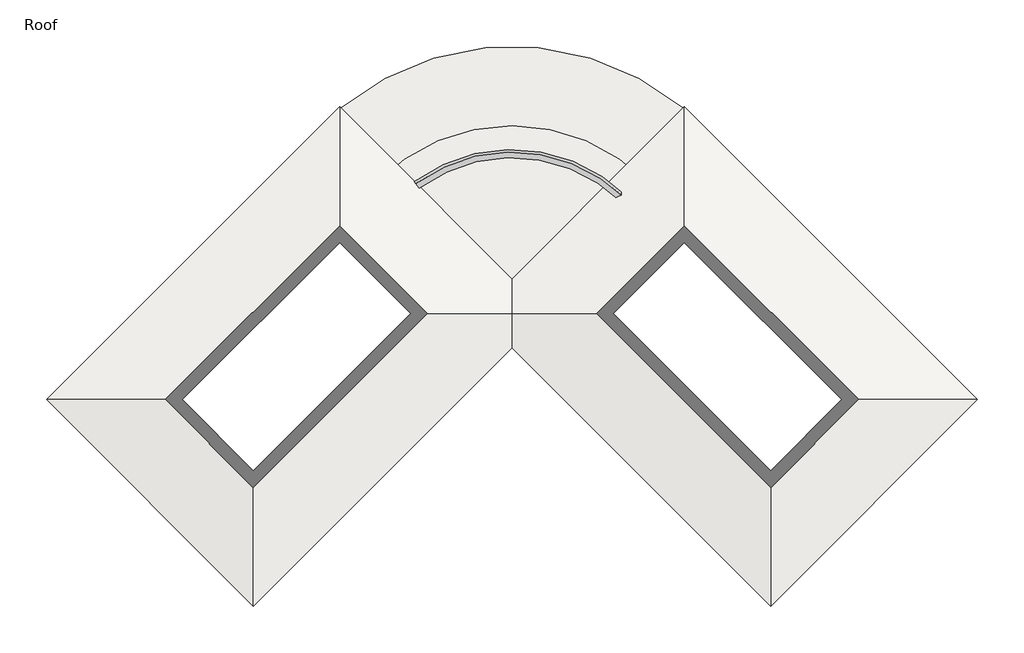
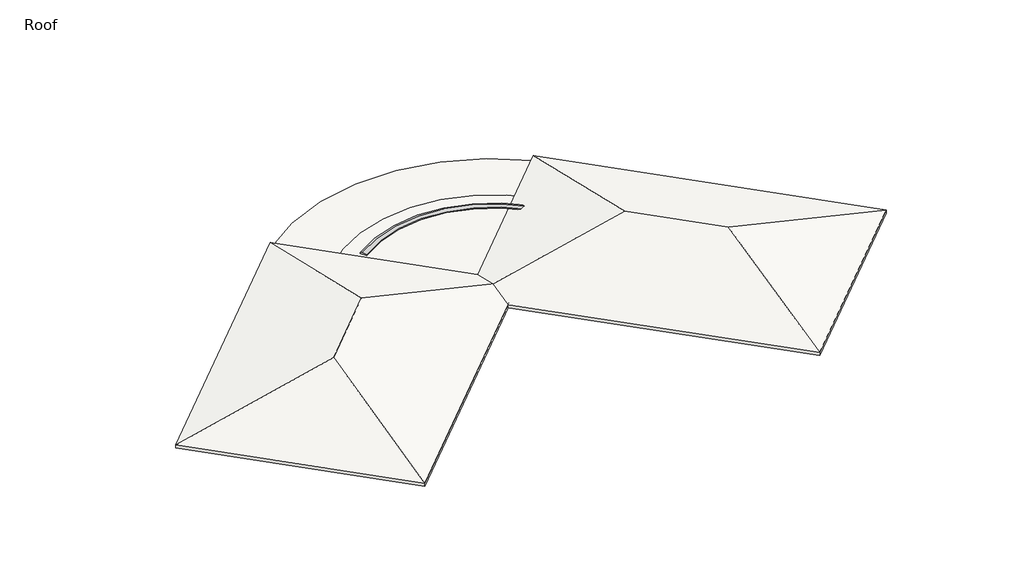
# One storey: 7 proxies, 4 roofs.
"""IFC4 building model written with IfcOpenShell, lengths in millimetres."""

import ifcopenshell
import ifcopenshell.guid

model = None  # the IFC model being written
_history = None  # IfcOwnerHistory: only IFC2X3 demands one
_inside = {}  # id of a spatial element -> (the spatial element, [elements in it])
_under = {}  # id of a project, library or spatial element -> (it, [spatial elements below it])
_declared = {}  # id of a project -> (the project, [libraries it declares])
_typed = {}  # id of a type object -> (the type object, [elements of that type])
_made_of = {}  # id of a material, layer set ... -> (it, [elements and type objects made of it])


def new_model(schema):
    """Start an empty IFC model of exactly this schema.

    Asked for "IFC4X3", IfcOpenShell would pick the latest addendum, in which some entities
    have other attributes; the version numbers below select the first issue.
    IFC2X3 requires an IfcOwnerHistory on every rooted entity: one is made here for all.
    """
    global model, _history
    if schema == "IFC4X3":
        model = ifcopenshell.file(schema_version=(4, 3, 0, 0))
    else:
        model = ifcopenshell.file(schema=schema)
    _inside.clear()
    _under.clear()
    _declared.clear()
    _typed.clear()
    _made_of.clear()
    _history = None
    if model.schema == "IFC2X3":
        org = make("IfcOrganization", Name="unknown")
        user = make(
            "IfcPersonAndOrganization",
            ThePerson=make("IfcPerson", FamilyName="unknown"),
            TheOrganization=org,
        )
        app = make(
            "IfcApplication",
            ApplicationDeveloper=org,
            Version="unknown",
            ApplicationFullName="unknown",
            ApplicationIdentifier="unknown",
        )
        _history = make(
            "IfcOwnerHistory",
            OwningUser=user,
            OwningApplication=app,
            ChangeAction="ADDED",
            CreationDate=0,
        )
    return model


def make(cls, **values):
    """One entity of the class cls with the attributes given. An attribute that is None is left unset."""
    return model.create_entity(
        cls, **{name: value for name, value in values.items() if value is not None}
    )


def rooted(cls, **values):
    """An entity with a GlobalId (a new one), such as an element, a storey or a relation."""
    return make(cls, GlobalId=ifcopenshell.guid.new(), OwnerHistory=_history, **values)


def si_unit(unit_type, name, prefix=None):
    """IfcSIUnit, for example si_unit("LENGTHUNIT", "METRE", prefix="MILLI")."""
    return make("IfcSIUnit", UnitType=unit_type, Prefix=prefix, Name=name)


def assignment(units):
    """IfcUnitAssignment: the units of a project."""
    return None if units is None else make("IfcUnitAssignment", Units=units)


def point(xyz):
    """IfcCartesianPoint."""
    return None if xyz is None else make("IfcCartesianPoint", Coordinates=xyz)


def direction(xyz):
    """IfcDirection."""
    return None if xyz is None else make("IfcDirection", DirectionRatios=xyz)


def frame(location, z_axis=None, x_axis=None):
    """IfcAxis2Placement3D, a coordinate frame: its origin and axes. An axis left out is left unset."""
    return make(
        "IfcAxis2Placement3D",
        Location=point(location),
        Axis=direction(z_axis),
        RefDirection=direction(x_axis),
    )


def frame_2d(location, x_axis=None):
    """IfcAxis2Placement2D, a coordinate frame in the plane: its origin and x axis."""
    return make(
        "IfcAxis2Placement2D", Location=point(location), RefDirection=direction(x_axis)
    )


def origin():
    """The frame at (0, 0, 0) with its axes left unset."""
    return frame((0.0, 0.0, 0.0))


def place(relative_to, where):
    """IfcLocalPlacement: puts the frame where relative to a parent placement (None: the world)."""
    return make(
        "IfcLocalPlacement", PlacementRelTo=relative_to, RelativePlacement=where
    )


def context(
    kind, dimensions, precision=None, world=None, true_north=None, identifier=None
):
    """IfcGeometricRepresentationContext, for example the 3D "Model" context."""
    return make(
        "IfcGeometricRepresentationContext",
        ContextIdentifier=identifier,
        ContextType=kind,
        CoordinateSpaceDimension=dimensions,
        Precision=precision,
        WorldCoordinateSystem=world,
        TrueNorth=true_north,
    )


def project(units=None, contexts=None):
    """IfcProject with its units and contexts."""
    return rooted(
        "IfcProject",
        Name="project",
        RepresentationContexts=contexts,
        UnitsInContext=assignment(units),
    )


def spatial(cls, under=None, at=None, **own):
    """A site, building, storey or space (cls), placed at a placement, below another one or the project."""
    s = rooted(cls, ObjectPlacement=at, **own)
    if under is not None:
        _under.setdefault(under.id(), (under, []))[1].append(s)
    return s


def polyline(points):
    """IfcPolyline through the points."""
    return make("IfcPolyline", Points=[point(p) for p in points])


def circle_curve(where, radius):
    """IfcCircle in the frame where."""
    return make("IfcCircle", Position=where, Radius=radius)


def trimmed(basis, trim1, trim2, sense, master):
    """IfcTrimmedCurve: the piece of a basis curve between two trims."""
    return make(
        "IfcTrimmedCurve",
        BasisCurve=basis,
        Trim1=trim1,
        Trim2=trim2,
        SenseAgreement=sense,
        MasterRepresentation=master,
    )


def segment(curve, same_sense, transition):
    """IfcCompositeCurveSegment."""
    return make(
        "IfcCompositeCurveSegment",
        Transition=transition,
        SameSense=same_sense,
        ParentCurve=curve,
    )


def composite_curve(segments, self_intersect=None):
    """IfcCompositeCurve: segments joined end to end."""
    return make("IfcCompositeCurve", Segments=segments, SelfIntersect=self_intersect)


def outline(outer, holes=None, kind="AREA"):
    """IfcArbitraryClosedProfileDef: a profile drawn as a closed curve; with holes, ...WithVoids."""
    if holes is None:
        return make("IfcArbitraryClosedProfileDef", ProfileType=kind, OuterCurve=outer)
    return make(
        "IfcArbitraryProfileDefWithVoids",
        ProfileType=kind,
        OuterCurve=outer,
        InnerCurves=holes,
    )


def extrude(swept, where, along, depth):
    """IfcExtrudedAreaSolid: the profile swept, set in the frame where, extruded along a direction by depth."""
    return make(
        "IfcExtrudedAreaSolid",
        SweptArea=swept,
        Position=where,
        ExtrudedDirection=direction(along),
        Depth=depth,
    )


def faces_of(points, faces, orient=None, outer=None):
    """IfcFace entities. A face is a list of loops; a loop is a list of indices into points, from 0.

    orient and outer hold one flag for each loop. By default every Orientation is true, the
    first loop of a face is its IfcFaceOuterBound and the others are IfcFaceBound.
    """
    made = []
    for i, loops in enumerate(faces):
        bounds = []
        for j, loop in enumerate(loops):
            is_outer = j == 0 if outer is None else outer[i][j]
            bounds.append(
                make(
                    "IfcFaceOuterBound" if is_outer else "IfcFaceBound",
                    Bound=make("IfcPolyLoop", Polygon=[points[k] for k in loop]),
                    Orientation=True if orient is None else orient[i][j],
                )
            )
        made.append(make("IfcFace", Bounds=bounds))
    return made


def faceted_brep(points, faces, orient=None, outer=None, voids=None):
    """IfcFacetedBrep: a solid bounded by flat faces; with voids (closed shells), ...WithVoids."""
    shared = [point(p) for p in points]
    hull = make("IfcClosedShell", CfsFaces=faces_of(shared, faces, orient, outer))
    if voids is None:
        return make("IfcFacetedBrep", Outer=hull)
    return make(
        "IfcFacetedBrepWithVoids",
        Outer=hull,
        Voids=[
            make(cls, CfsFaces=faces_of(shared, fs, o, b)) for cls, fs, o, b in voids
        ],
    )


def shape(context_of_items, identifier, shape_type, items):
    """IfcShapeRepresentation: the items that make up one representation, for example the "Body"."""
    return make(
        "IfcShapeRepresentation",
        ContextOfItems=context_of_items,
        RepresentationIdentifier=identifier,
        RepresentationType=shape_type,
        Items=items,
    )


def made_of(thing, what):
    """Note that an element or type object is made of a material, layer set ...; save() writes the relation."""
    if what is not None:
        _made_of.setdefault(what.id(), (what, []))[1].append(thing)
    return thing


def element(
    cls,
    number,
    at=None,
    inside=None,
    cuts=None,
    type_object=None,
    material=None,
    context=None,
    identifier="Body",
    shape_type=None,
    held_by="IfcProductDefinitionShape",
    body=None,
    shapes=None,
    **own,
):
    """One element of the class cls, such as IfcWall. Its Tag is "e" and its number.

    at: its placement. inside: the storey or other place that contains it. cuts: it is an
    opening in that element (IfcRelVoidsElement). A single representation is given by context,
    identifier, shape_type and body (its items); several are given by shapes. held_by: the class
    of the entity that holds the representations. save() writes the other relations.
    """
    e = rooted(cls, Tag="e%d" % number, ObjectPlacement=at, **own)
    if body is not None:
        shapes = [shape(context, identifier, shape_type, body)]
    if shapes is not None:
        e.Representation = make(held_by, Representations=shapes)
    if inside is not None:
        _inside.setdefault(inside.id(), (inside, []))[1].append(e)
    if cuts is not None:
        rooted(
            "IfcRelVoidsElement", RelatingBuildingElement=cuts, RelatedOpeningElement=e
        )
    if type_object is not None:
        _typed.setdefault(type_object.id(), (type_object, []))[1].append(e)
    return made_of(e, material)


def aggregate(whole, parts):
    """IfcRelAggregates: a whole, such as a stair, and the parts it consists of."""
    return rooted("IfcRelAggregates", RelatingObject=whole, RelatedObjects=parts)


def save(model, path):
    """Write the relations noted so far, then the file.

    IfcRelAggregates (storeys below a building ...), IfcRelContainedInSpatialStructure (elements
    in a storey), IfcRelDefinesByType, IfcRelAssociatesMaterial and IfcRelDeclares: one each for
    every whole, place, type object, material and project.
    """
    for whole, parts in _under.values():
        aggregate(whole, parts)
    for where, things in _inside.values():
        rooted(
            "IfcRelContainedInSpatialStructure",
            RelatedElements=things,
            RelatingStructure=where,
        )
    for kind, things in _typed.values():
        rooted("IfcRelDefinesByType", RelatedObjects=things, RelatingType=kind)
    for what, things in _made_of.values():
        rooted("IfcRelAssociatesMaterial", RelatedObjects=things, RelatingMaterial=what)
    for by, libraries in _declared.values():
        rooted("IfcRelDeclares", RelatingContext=by, RelatedDefinitions=libraries)
    model.write(path)


def plane_surface(at):
    """IfcPlane: the flat surface through the origin of the frame at, square to its z axis."""
    return make("IfcPlane", Position=at)


def cylinder_surface(at, radius):
    """IfcCylindricalSurface: all points at the distance radius from the z axis of the frame at."""
    return make("IfcCylindricalSurface", Position=at, Radius=radius)


def revolved_surface(curve, axis_point, axis_direction):
    """IfcSurfaceOfRevolution: the curve turned about the line through axis_point along axis_direction."""
    return make(
        "IfcSurfaceOfRevolution",
        SweptCurve=make("IfcArbitraryOpenProfileDef", ProfileType="CURVE", Curve=curve),
        AxisPosition=make("IfcAxis1Placement", Location=point(axis_point), Axis=direction(axis_direction)),
    )


def advanced_brep(points, edges, surfaces, faces):
    """IfcAdvancedBrep: a solid bounded by faces that lie on surfaces and meet in shared edges.

    An edge is (start, end): straight between two places in points (the first is 0);
    or (start, end, curve); or (start, end, curve, False) where it runs against its curve.
    A face is (place in surfaces, loops), or (place, loops, False) where it looks against
    its surface's normal. A loop lists edges by number (the first is 1), with a minus sign
    where the edge is run from its end to its start. The first loop is the outer one.
    """
    corners = [point(p) for p in points]
    vertices = [make("IfcVertexPoint", VertexGeometry=c) for c in corners]
    made = []
    for start, end, *more in edges:
        made.append(
            make(
                "IfcEdgeCurve",
                EdgeStart=vertices[start],
                EdgeEnd=vertices[end],
                EdgeGeometry=more[0] if more else make("IfcPolyline", Points=[corners[start], corners[end]]),
                SameSense=more[1] if len(more) > 1 else True,
            )
        )
    hull = []
    for where, loops, *sense in faces:
        bounds = []
        for j, loop in enumerate(loops):
            ring = [make("IfcOrientedEdge", EdgeElement=made[abs(k) - 1], Orientation=k > 0) for k in loop]
            bounds.append(
                make(
                    "IfcFaceOuterBound" if j == 0 else "IfcFaceBound",
                    Bound=make("IfcEdgeLoop", EdgeList=ring),
                    Orientation=True,
                )
            )
        hull.append(make("IfcAdvancedFace", Bounds=bounds, FaceSurface=surfaces[where], SameSense=sense[0] if sense else True))
    return make("IfcAdvancedBrep", Outer=make("IfcClosedShell", CfsFaces=hull))


model = new_model("IFC4")

# Units and contexts
model_context = context("Model", 3, world=origin())
ifc_project = project(units=[si_unit("LENGTHUNIT", "METRE", prefix="MILLI")], contexts=[model_context])

# Site, building, storey
site = spatial("IfcSite", under=ifc_project)
building = spatial("IfcBuilding", under=site)
storey = spatial("IfcBuildingStorey", under=building, Name="Roof", Elevation=4572.0)

# Proxies
placement = place(None, origin())
element("IfcBuildingElementProxy", 1, Name="Wall Sweeps", at=placement, inside=storey, context=model_context, shape_type="Brep", body=[
    faceted_brep([(4057.9485283, 9339.6949534, 4635.5), (3860.3828937, 9537.2605881, 4673.6), (3770.5803325, 9627.0631493, 4635.5), (3770.5803325, 9627.0631493, 4572.0), (4057.9485283, 9339.6949534, 4572.0), (5753.0175119, 11034.763937, 4635.5), (5753.0175119, 11034.763937, 4572.0), (5753.0175119, 11609.5003287, 4572.0), (5753.0175119, 11609.5003287, 4635.5), (5753.0175119, 11429.8952063, 4673.6)], [[[0, 1, 2, 3, 4]], [[5, 6, 7, 8, 9]], [[1, 0, 5, 9]], [[2, 1, 9, 8]], [[3, 2, 8, 7]], [[4, 3, 7, 6]], [[0, 4, 6, 5]]]),
])
element("IfcBuildingElementProxy", 2, Name="Wall Sweeps", at=placement, inside=storey, context=model_context, shape_type="Brep", body=[
    faceted_brep([(5753.0175119, 11034.763937, 4635.5), (5753.0175119, 11429.8952063, 4673.6), (5753.0175119, 11609.5003287, 4635.5), (5753.0175119, 11609.5003287, 4572.0), (5753.0175119, 11034.763937, 4572.0), (18145.770959, -1357.9895101, 4635.5), (18145.770959, -1357.9895101, 4572.0), (18720.5073507, -1357.9895101, 4572.0), (18720.5073507, -1357.9895101, 4635.5), (18540.9022283, -1357.9895101, 4673.6)], [[[0, 1, 2, 3, 4]], [[5, 6, 7, 8, 9]], [[1, 0, 5, 9]], [[2, 1, 9, 8]], [[3, 2, 8, 7]], [[4, 3, 7, 6]], [[0, 4, 6, 5]]]),
])
element("IfcBuildingElementProxy", 3, Name="Wall Sweeps", at=placement, inside=storey, context=model_context, shape_type="Brep", body=[
    faceted_brep([(18145.770959, -1357.9895101, 4635.5), (18540.9022283, -1357.9895101, 4673.6), (18720.5073507, -1357.9895101, 4635.5), (18720.5073507, -1357.9895101, 4572.0), (18145.770959, -1357.9895101, 4572.0), (9918.7338201, -9585.026649, 4635.5), (9918.7338201, -9585.026649, 4572.0), (9938.9393964, -9605.2322253, 4572.0), (10188.1415037, -9854.4343326, 4572.0), (10206.102016, -9872.3948449, 4572.0), (10206.102016, -9872.3948449, 4635.5), (10116.2994547, -9782.5922837, 4673.6)], [[[0, 1, 2, 3, 4]], [[5, 6, 7, 8, 9, 10, 11]], [[1, 0, 5, 11]], [[2, 1, 11, 10]], [[3, 2, 10, 9]], [[4, 3, 9, 8, 7, 6]], [[0, 4, 6, 5]]]),
])
element("IfcBuildingElementProxy", 4, Name="Wall Sweeps", at=placement, inside=storey, context=model_context, shape_type="Brep", body=[
    faceted_brep([(-15654.7905487, -9585.026649, 4635.5), (-15852.3561834, -9782.5922837, 4673.6), (-15942.1587446, -9872.3948449, 4635.5), (-15942.1587446, -9872.3948449, 4572.0), (-15924.1982323, -9854.4343326, 4572.0), (-15674.996125, -9605.2322253, 4572.0), (-15654.7905487, -9585.026649, 4572.0), (-23881.8276876, -1357.9895101, 4635.5), (-23881.8276876, -1357.9895101, 4572.0), (-24456.5640794, -1357.9895101, 4572.0), (-24456.5640794, -1357.9895101, 4635.5), (-24276.9589569, -1357.9895101, 4673.6)], [[[0, 1, 2, 3, 4, 5, 6]], [[7, 8, 9, 10, 11]], [[1, 0, 7, 11]], [[2, 1, 11, 10]], [[3, 2, 10, 9]], [[6, 5, 4, 3, 9, 8]], [[0, 6, 8, 7]]]),
])
element("IfcBuildingElementProxy", 5, Name="Wall Sweeps", at=placement, inside=storey, context=model_context, shape_type="Brep", body=[
    faceted_brep([(-23881.8276876, -1357.9895101, 4635.5), (-24276.9589569, -1357.9895101, 4673.6), (-24456.5640794, -1357.9895101, 4635.5), (-24456.5640794, -1357.9895101, 4572.0), (-23881.8276876, -1357.9895101, 4572.0), (-11489.0742405, 11034.763937, 4635.5), (-11489.0742405, 11034.763937, 4572.0), (-11489.0742405, 11609.5003287, 4572.0), (-11489.0742405, 11609.5003287, 4635.5), (-11489.0742405, 11429.8952063, 4673.6)], [[[0, 1, 2, 3, 4]], [[5, 6, 7, 8, 9]], [[1, 0, 5, 9]], [[2, 1, 9, 8]], [[3, 2, 8, 7]], [[4, 3, 7, 6]], [[0, 4, 6, 5]]]),
])
element("IfcBuildingElementProxy", 6, Name="Wall Sweeps", at=placement, inside=storey, context=model_context, shape_type="Brep", body=[
    faceted_brep([(-11489.0742405, 11034.763937, 4635.5), (-11489.0742405, 11429.8952063, 4673.6), (-11489.0742405, 11609.5003287, 4635.5), (-11489.0742405, 11609.5003287, 4572.0), (-11489.0742405, 11034.763937, 4572.0), (-8931.8939077, 8477.5836041, 4635.5), (-8931.8939077, 8477.5836041, 4572.0), (-8911.6883314, 8497.7891804, 4572.0), (-8662.486224, 8746.9912878, 4572.0), (-8644.5257118, 8764.9518, 4572.0), (-8644.5257118, 8764.9518, 4635.5), (-8734.328273, 8675.1492388, 4673.6), (-8836.2976328, 8573.179879, 4653.9354839), (-8911.6883314, 8497.7891804, 4639.3965909)], [[[0, 1, 2, 3, 4]], [[5, 6, 7, 8, 9, 10, 11, 12, 13]], [[1, 0, 5, 13, 12, 11]], [[2, 1, 11, 10]], [[3, 2, 10, 9]], [[4, 3, 9, 8, 7, 6]], [[0, 4, 6, 5]]]),
])
element("IfcBuildingElementProxy", 7, Name="Wall Sweeps", at=placement, inside=storey, context=model_context, shape_type="AdvancedBrep", body=[
    advanced_brep(
    [(-7507.26102, 9233.8641208, 4635.5), (-7672.4116971, 9459.2296325, 4673.6), (-7747.4801867, 9561.6685015, 4635.5), (-7747.4801867, 9561.6685015, 4572.0), (-7507.26102, 9233.8641208, 4572.0), (2658.1675575, 8476.4427105, 4635.5), (2658.1675575, 8476.4427105, 4572.0), (2944.3136246, 8765.0278596, 4572.0), (2944.3136246, 8765.0278596, 4635.5), (2854.8929786, 8674.8450005, 4673.6)],
    [
        (0, 1),
        (1, 2),
        (2, 3),
        (3, 4),
        (4, 0),
        (5, 6),
        (6, 7),
        (7, 8),
        (8, 9),
        (9, 5),
        (9, 1, circle_curve(frame((-2868.0283643, 2903.1420194, 4673.6), z_axis=(0.0, 0.0, 1.0), x_axis=(-0.591090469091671, 0.8066052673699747, 0.0)), 8128.0)),
        (0, 5, circle_curve(frame((-2868.0283643, 2903.1420194, 4635.5), z_axis=(0.0, 0.0, -1.0), x_axis=(-0.591090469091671, 0.8066052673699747, 0.0)), 7848.6)),
        (8, 2, circle_curve(frame((-2868.0283643, 2903.1420194, 4635.5), z_axis=(0.0, 0.0, 1.0), x_axis=(-0.591090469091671, 0.8066052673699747, 0.0)), 8255.0)),
        (7, 3, circle_curve(frame((-2868.0283643, 2903.1420194, 4572.0), z_axis=(0.0, 0.0, 1.0), x_axis=(-0.591090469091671, 0.8066052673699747, 0.0)), 8255.0)),
        (6, 4, circle_curve(frame((-2868.0283643, 2903.1420194, 4572.0), z_axis=(0.0, 0.0, 1.0), x_axis=(-0.591090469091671, 0.8066052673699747, 0.0)), 7848.6)),
    ],
    [
        plane_surface(frame((-2868.0283643, 2903.1420194, 4572.0), z_axis=(-0.8066052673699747, -0.591090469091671, 0.0), x_axis=(-0.591090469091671, 0.8066052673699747, 0.0))),
        plane_surface(frame((-2868.0283643, 2903.1420194, 4572.0), z_axis=(0.7101012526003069, -0.7040995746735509, 0.0), x_axis=(0.7040995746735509, 0.7101012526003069, 0.0))),
        revolved_surface(polyline([(-7507.26102, 9233.8641208, 4635.5), (-7672.4116971, 9459.2296325, 4673.6)]), (-2868.0283643, 2903.1420194, 4572.0), (0.0, 0.0, -1.0)),
        revolved_surface(polyline([(-7672.4116971, 9459.2296325, 4673.6), (-7747.4801867, 9561.6685015, 4635.5)]), (-2868.0283643, 2903.1420194, 4572.0), (0.0, 0.0, -1.0)),
        cylinder_surface(frame((-2868.0283643, 2903.1420194, 4572.0), z_axis=(0.0, 0.0, -1.0), x_axis=(-0.591090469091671, 0.8066052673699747, 0.0)), 8255.0),
        plane_surface(frame((-2868.0283643, 2903.1420194, 4572.0), z_axis=(0.0, 0.0, -1.0), x_axis=(-0.591090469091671, 0.8066052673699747, 0.0))),
        revolved_surface(polyline([(-7507.261020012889, 9233.864120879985, 4572.0), (-7507.261020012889, 9233.864120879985, 4635.5)]), (-2868.0283643, 2903.1420194, 4572.0), (0.0, 0.0, -1.0)),
    ],
    [
        (0, [[1, 2, 3, 4, 5]]),
        (1, [[6, 7, 8, 9, 10]]),
        (2, [[11, -1, 12, -10]]),
        (3, [[13, -2, -11, -9]]),
        (4, [[14, -3, -13, -8]]),
        (5, [[15, -4, -14, -7]]),
        (6, [[-12, -5, -15, -6]]),
    ],
),
])

# Roofs
element("IfcRoof", 8, ObjectType="Insulation on Metal Deck - EPDM", at=placement, inside=storey, context=model_context, shape_type="Brep", body=[
    faceted_brep([(-11489.0742405, 2952.533428, 6604.0), (-11489.0742405, 13297.7884795, 4165.6), (-1143.8191891, 2952.533428, 4165.6), (-26144.8522301, -1357.9895101, 4165.6), (-15799.5971786, -1357.9895101, 6604.0), (-15799.5971786, -11703.2445616, 4165.6), (-11489.0742405, 13297.7884795, 4373.0981191), (-11489.0742405, 2952.533428, 6811.4981191), (-1143.8191891, 2952.533428, 4373.0981191), (-26144.8522301, -1357.9895101, 4373.0981191), (-15799.5971786, -11703.2445616, 4373.0981191), (-15799.5971786, -1357.9895101, 6811.4981191)], [[[0, 1, 2]], [[3, 4, 5]], [[1, 0, 4, 3]], [[5, 4, 0, 2]], [[6, 7, 8]], [[9, 10, 11]], [[6, 9, 11, 7]], [[10, 8, 7, 11]], [[3, 9, 6, 1]], [[5, 10, 9, 3]], [[2, 8, 10, 5]], [[1, 6, 8, 2]]]),
])
element("IfcRoof", 9, ObjectType="Insulation on Metal Deck - EPDM", at=placement, inside=storey, context=model_context, shape_type="SweptSolid", body=[
    extrude(outline(composite_curve([segment(trimmed(circle_curve(frame_2d((-2868.0283643, 2903.1420194)), 9448.8), [point((-9665.5266036, 9466.2083094))], [point((3929.469875, 9466.2083094))], False, "CARTESIAN"), True, "CONTINUOUS"), segment(polyline([(3929.469875, 9466.2083094), (-2868.0283643, 2668.7100701), (-9665.5266036, 9466.2083094)]), True, "CONTINUOUS")], self_intersect=False)), frame((0.0, 0.0, 4165.6), z_axis=(0.0, 0.0, 1.0), x_axis=(1.0, 0.0, 0.0)), (0.0, 0.0, 1.0), 196.85),
])
element("IfcRoof", 10, ObjectType="Insulation on Metal Deck - EPDM", at=placement, inside=storey, context=model_context, shape_type="Brep", body=[
    faceted_brep([(5753.0175119, 2952.533428, 6604.0), (5753.0175119, 13297.7884795, 4165.6), (20408.7955015, -1357.9895101, 4165.6), (10063.54045, -1357.9895101, 6604.0), (-4592.2375396, 2952.533428, 4165.6), (10063.54045, -11703.2445616, 4165.6), (5753.0175119, 13297.7884795, 4373.0981191), (5753.0175119, 2952.533428, 6811.4981191), (10063.54045, -1357.9895101, 6811.4981191), (20408.7955015, -1357.9895101, 4373.0981191), (-4592.2375396, 2952.533428, 4373.0981191), (10063.54045, -11703.2445616, 4373.0981191)], [[[0, 1, 2, 3]], [[1, 0, 4]], [[5, 3, 2]], [[4, 0, 3, 5]], [[6, 7, 8, 9]], [[6, 10, 7]], [[11, 9, 8]], [[10, 11, 8, 7]], [[4, 10, 6, 1]], [[5, 11, 10, 4]], [[2, 9, 11, 5]], [[1, 6, 9, 2]]]),
])
element("IfcRoof", 11, ObjectType="Insulation on Metal Deck - EPDM", at=placement, inside=storey, context=model_context, shape_type="SweptSolid", body=[
    extrude(outline(composite_curve([segment(polyline([(-2868.0283643, 4676.7426033), (-11422.8236982, 13231.5379372)]), True, "CONTINUOUS"), segment(trimmed(circle_curve(frame_2d((-2868.0283643, 2903.1420194)), 13411.2), [point((-11422.8236982, 13231.5379372))], [point((5686.7669696, 13231.5379372))], False, "CARTESIAN"), True, "CONTINUOUS"), segment(polyline([(5686.7669696, 13231.5379372), (-2868.0283643, 4676.7426033)]), True, "CONTINUOUS")], self_intersect=False)), frame((0.0, 0.0, 3911.6), z_axis=(0.0, 0.0, 1.0), x_axis=(1.0, 0.0, 0.0)), (0.0, 0.0, 1.0), 196.85),
])

save(model, "model.ifc")
